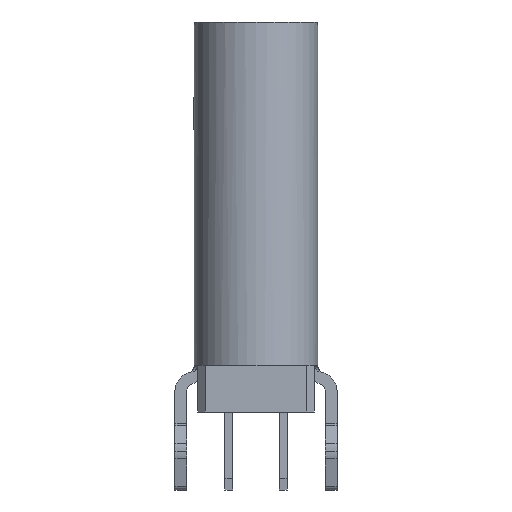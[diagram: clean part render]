
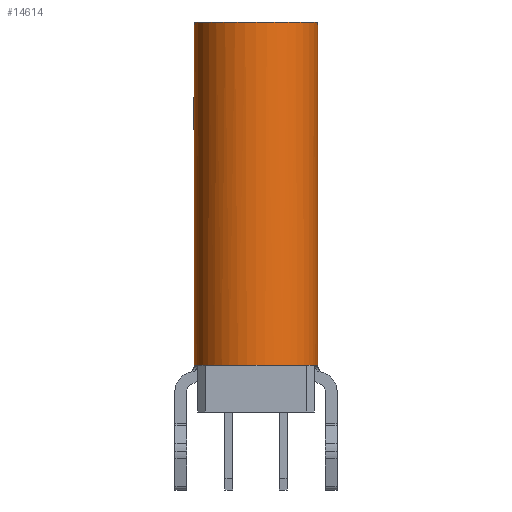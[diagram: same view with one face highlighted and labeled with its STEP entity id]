
A CAD part, left-side view. The second image highlights one B-rep face of the part: STEP entity #14614.
In plain terms, the highlighted cylindrical face has radius 1.58 mm (diameter 3.16 mm), a partial arc.
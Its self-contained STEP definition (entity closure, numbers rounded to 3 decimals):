
#37 = DIRECTION ( 'NONE',  ( 0., 0., 1. ) ) ;
#351 = DIRECTION ( 'NONE',  ( -0.956, -0.294, 0. ) ) ;
#580 = VERTEX_POINT ( 'NONE', #8122 ) ;
#743 = CARTESIAN_POINT ( 'NONE',  ( -65.8, -1.586, -47.993 ) ) ;
#971 = CARTESIAN_POINT ( 'NONE',  ( -64.289, -0.471, -42.126 ) ) ;
#1143 = DIRECTION ( 'NONE',  ( 0., 0., -1. ) ) ;
#1160 = FACE_OUTER_BOUND ( 'NONE', #23489, .T. ) ;
#1209 = EDGE_CURVE ( 'NONE', #580, #4850, #11217, .T. ) ;
#1549 = AXIS2_PLACEMENT_3D ( 'NONE', #21966, #1143, #13985 ) ;
#2014 = AXIS2_PLACEMENT_3D ( 'NONE', #18749, #6444, #351 ) ;
#2333 = CARTESIAN_POINT ( 'NONE',  ( -64.29, -2.051, -47.993 ) ) ;
#3430 = ORIENTED_EDGE ( 'NONE', *, *, #9706, .T. ) ;
#4338 = ORIENTED_EDGE ( 'NONE', *, *, #9213, .F. ) ;
#4576 = CIRCLE ( 'NONE', #1549, 1.58 ) ;
#4850 = VERTEX_POINT ( 'NONE', #18045 ) ;
#5372 = AXIS2_PLACEMENT_3D ( 'NONE', #19823, #17670, #7387 ) ;
#6064 = CARTESIAN_POINT ( 'NONE',  ( -64.29, -2.051, -47.993 ) ) ;
#6444 = DIRECTION ( 'NONE',  ( 0., 0., 1. ) ) ;
#6744 = DIRECTION ( 'NONE',  ( 0., 0., -1. ) ) ;
#7294 = VECTOR ( 'NONE', #16263, 1000. ) ;
#7344 = ORIENTED_EDGE ( 'NONE', *, *, #1209, .F. ) ;
#7377 = EDGE_CURVE ( 'NONE', #580, #15880, #21749, .T. ) ;
#7387 = DIRECTION ( 'NONE',  ( 1., 0., 0. ) ) ;
#7465 = EDGE_CURVE ( 'NONE', #15805, #4850, #21077, .T. ) ;
#8122 = CARTESIAN_POINT ( 'NONE',  ( -65.1, -0.695, -47.993 ) ) ;
#8377 = ORIENTED_EDGE ( 'NONE', *, *, #18982, .T. ) ;
#8419 = DIRECTION ( 'NONE',  ( -0.513, 0.859, 0. ) ) ;
#8961 = CARTESIAN_POINT ( 'NONE',  ( -64.287, -0.471, -45.06 ) ) ;
#9213 = EDGE_CURVE ( 'NONE', #15604, #12920, #21519, .T. ) ;
#9414 = CYLINDRICAL_SURFACE ( 'NONE', #5372, 1.58 ) ;
#9702 = ORIENTED_EDGE ( 'NONE', *, *, #7465, .T. ) ;
#9706 = EDGE_CURVE ( 'NONE', #15604, #15388, #17893, .T. ) ;
#10082 = AXIS2_PLACEMENT_3D ( 'NONE', #2333, #37, #8419 ) ;
#10982 = CARTESIAN_POINT ( 'NONE',  ( -64.29, -0.471, -39.193 ) ) ;
#11159 = ORIENTED_EDGE ( 'NONE', *, *, #25773, .T. ) ;
#11217 = CIRCLE ( 'NONE', #21592, 1.58 ) ;
#11976 = VERTEX_POINT ( 'NONE', #26295 ) ;
#12559 = DIRECTION ( 'NONE',  ( 0., -1., 0. ) ) ;
#12891 = AXIS2_PLACEMENT_3D ( 'NONE', #6064, #23092, #16878 ) ;
#12920 = VERTEX_POINT ( 'NONE', #19427 ) ;
#13577 = CARTESIAN_POINT ( 'NONE',  ( -64.288, -3.631, -43.593 ) ) ;
#13984 = CARTESIAN_POINT ( 'NONE',  ( -64.29, -2.051, -47.993 ) ) ;
#13985 = DIRECTION ( 'NONE',  ( -0.956, -0.294, 0. ) ) ;
#14614 = ADVANCED_FACE ( 'NONE', ( #1160 ), #9414, .T. ) ;
#15388 = VERTEX_POINT ( 'NONE', #26236 ) ;
#15604 = VERTEX_POINT ( 'NONE', #18925 ) ;
#15805 = VERTEX_POINT ( 'NONE', #24315 ) ;
#15880 = VERTEX_POINT ( 'NONE', #743 ) ;
#16263 = DIRECTION ( 'NONE',  ( 0., 0., 1. ) ) ;
#16745 = CARTESIAN_POINT ( 'NONE',  ( -64.29, -2.051, -39.193 ) ) ;
#16878 = DIRECTION ( 'NONE',  ( 0.002, -1., 0. ) ) ;
#17670 = DIRECTION ( 'NONE',  ( 0., 0., 1. ) ) ;
#17893 = LINE ( 'NONE', #13577, #7294 ) ;
#18045 = CARTESIAN_POINT ( 'NONE',  ( -64.286, -0.471, -47.993 ) ) ;
#18308 = DIRECTION ( 'NONE',  ( 0., 0., -1. ) ) ;
#18347 = EDGE_CURVE ( 'NONE', #11976, #15880, #4576, .T. ) ;
#18749 = CARTESIAN_POINT ( 'NONE',  ( -64.29, -2.051, -47.993 ) ) ;
#18925 = CARTESIAN_POINT ( 'NONE',  ( -64.286, -3.631, -47.993 ) ) ;
#18982 = EDGE_CURVE ( 'NONE', #11976, #12920, #23176, .T. ) ;
#19427 = CARTESIAN_POINT ( 'NONE',  ( -65.1, -3.408, -47.993 ) ) ;
#19823 = CARTESIAN_POINT ( 'NONE',  ( -64.29, -2.051, -38.993 ) ) ;
#19941 = DIRECTION ( 'NONE',  ( -0.513, 0.859, 0. ) ) ;
#20292 = ORIENTED_EDGE ( 'NONE', *, *, #18347, .F. ) ;
#21077 = B_SPLINE_CURVE_WITH_KNOTS ( 'NONE', 3,
 ( #10982, #971, #8961, #23286 ),
 .UNSPECIFIED., .F., .F.,
 ( 4, 4 ),
 ( 0., 1. ),
 .UNSPECIFIED. ) ;
#21519 = CIRCLE ( 'NONE', #12891, 1.58 ) ;
#21592 = AXIS2_PLACEMENT_3D ( 'NONE', #13984, #18308, #19941 ) ;
#21749 = CIRCLE ( 'NONE', #10082, 1.58 ) ;
#21966 = CARTESIAN_POINT ( 'NONE',  ( -64.29, -2.051, -47.993 ) ) ;
#23092 = DIRECTION ( 'NONE',  ( 0., 0., -1. ) ) ;
#23176 = CIRCLE ( 'NONE', #2014, 1.58 ) ;
#23191 = CIRCLE ( 'NONE', #24481, 1.58 ) ;
#23286 = CARTESIAN_POINT ( 'NONE',  ( -64.286, -0.471, -47.993 ) ) ;
#23489 = EDGE_LOOP ( 'NONE', ( #4338, #3430, #11159, #9702, #7344, #25452, #20292, #8377 ) ) ;
#24315 = CARTESIAN_POINT ( 'NONE',  ( -64.29, -0.471, -39.193 ) ) ;
#24481 = AXIS2_PLACEMENT_3D ( 'NONE', #16745, #6744, #12559 ) ;
#25452 = ORIENTED_EDGE ( 'NONE', *, *, #7377, .T. ) ;
#25773 = EDGE_CURVE ( 'NONE', #15388, #15805, #23191, .T. ) ;
#26236 = CARTESIAN_POINT ( 'NONE',  ( -64.29, -3.631, -39.193 ) ) ;
#26295 = CARTESIAN_POINT ( 'NONE',  ( -65.8, -2.516, -47.993 ) ) ;
